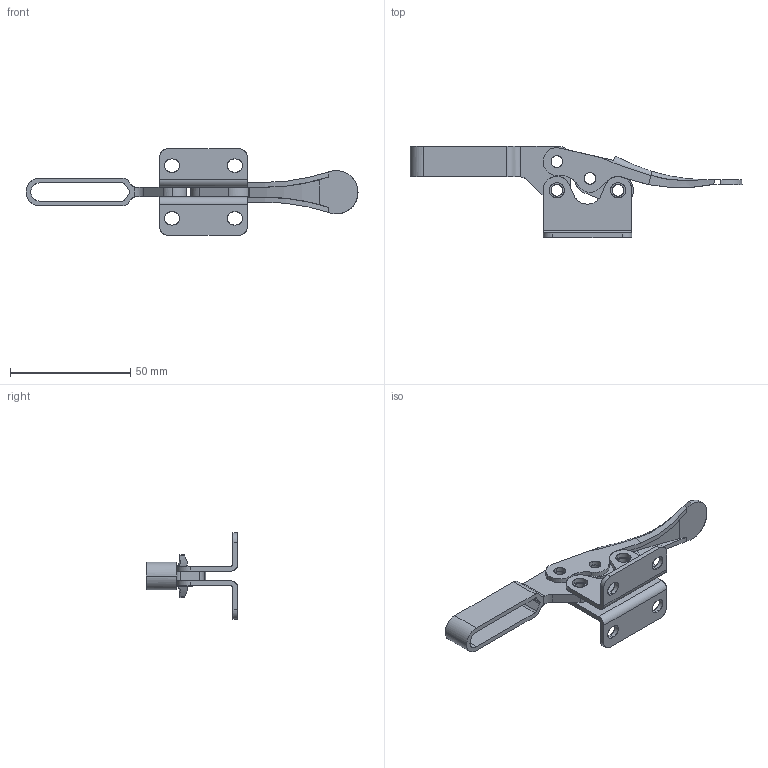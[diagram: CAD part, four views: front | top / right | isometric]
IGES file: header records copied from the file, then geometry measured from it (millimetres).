
Start section: Comment
Global section: file name: 201b.igs; native system:  By Spatial Corp.; preprocessor: XPlus PS/IGES 3.0; author: Author; organization: Title; date: 20050217.080050; units: inch
Bounding box: 138.21 x 38.13 x 36 mm (x, y, z)
Surface area: 13883.8 mm2 (no closed solid volume)
Topology: 0 solids, 0 shells, 143 faces, 826 edges, 824 vertices
Faces by surface type: revolution 84, extrusion 55, bspline 4
